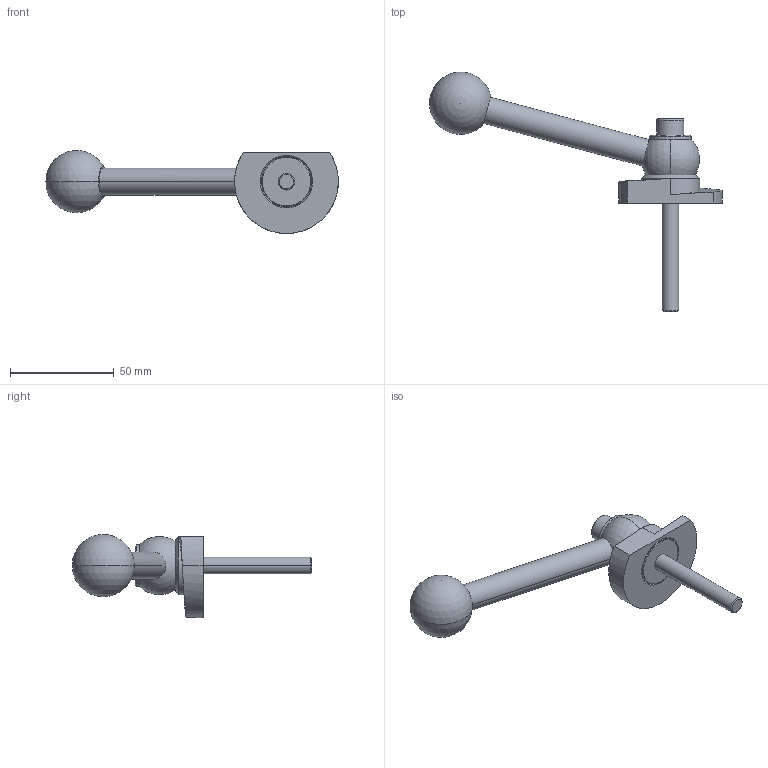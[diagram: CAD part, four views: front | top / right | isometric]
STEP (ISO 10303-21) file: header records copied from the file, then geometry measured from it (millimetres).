
FILE_DESCRIPTION (( 'STEP AP214' ), '1' );
FILE_NAME ('918.1-50-KVS-R-52.step', '2024-05-15T13:02:37', ( '' ), ( '' ), 'SwSTEP 2.0', 'SolidWorks 2022', '' );
FILE_SCHEMA (( 'AUTOMOTIVE_DESIGN' ));
Length unit declared in the file: millimetre
Products named in the file (1): 918.1-50-KVS-R-52
Bounding box: 140.94 x 115.31 x 40 mm (x, y, z)
Volume: 54060.7 mm3; surface area: 16796.3 mm2
Topology: 1 solids, 1 shells, 62 faces, 141 edges, 89 vertices
Faces by surface type: plane 20, cylinder 19, cone 14, sphere 4, bspline 3, torus 2
Entity records: 2011 total; most frequent: CARTESIAN_POINT 618, DIRECTION 305, ORIENTED_EDGE 262, EDGE_CURVE 131, AXIS2_PLACEMENT_3D 125, VERTEX_POINT 83, EDGE_LOOP 74, CIRCLE 65
